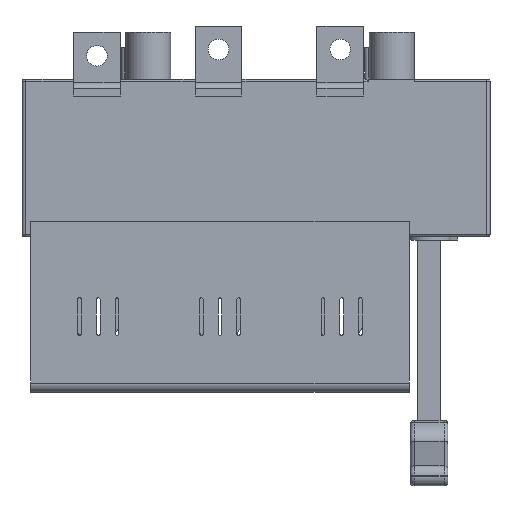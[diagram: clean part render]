
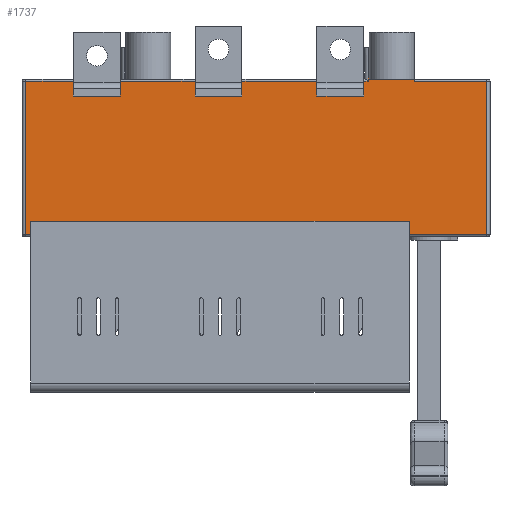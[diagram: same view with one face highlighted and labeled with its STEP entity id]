
A CAD part, front view. The second image highlights one B-rep face of the part: STEP entity #1737.
In plain terms, the highlighted planar face has unit normal (0, -1, 0).
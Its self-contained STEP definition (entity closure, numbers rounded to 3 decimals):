
#1737=ADVANCED_FACE('',(#3358),#2398,.T.);
#2398=PLANE('',#21617);
#3358=FACE_OUTER_BOUND('',#4579,.T.);
#4579=EDGE_LOOP('',(#10839,#10840,#10841,#10842,#10843,#10844,#10845,#10846,
#10847,#10848,#10849,#10850,#10851,#10852,#10853,#10854,#10855,#10856,#10857,
#10858,#10859,#10860,#10861,#10862,#10863,#10864,#10865,#10866));
#10839=ORIENTED_EDGE('',*,*,#15173,.F.);
#10840=ORIENTED_EDGE('',*,*,#15192,.F.);
#10841=ORIENTED_EDGE('',*,*,#15699,.T.);
#10842=ORIENTED_EDGE('',*,*,#15692,.T.);
#10843=ORIENTED_EDGE('',*,*,#15528,.F.);
#10844=ORIENTED_EDGE('',*,*,#15518,.T.);
#10845=ORIENTED_EDGE('',*,*,#15527,.T.);
#10846=ORIENTED_EDGE('',*,*,#15488,.T.);
#10847=ORIENTED_EDGE('',*,*,#15652,.T.);
#10848=ORIENTED_EDGE('',*,*,#15645,.F.);
#10849=ORIENTED_EDGE('',*,*,#15581,.F.);
#10850=ORIENTED_EDGE('',*,*,#15663,.T.);
#10851=ORIENTED_EDGE('',*,*,#15594,.T.);
#10852=ORIENTED_EDGE('',*,*,#15683,.T.);
#10853=ORIENTED_EDGE('',*,*,#15444,.F.);
#10854=ORIENTED_EDGE('',*,*,#15111,.T.);
#10855=ORIENTED_EDGE('',*,*,#15087,.T.);
#10856=ORIENTED_EDGE('',*,*,#15112,.T.);
#10857=ORIENTED_EDGE('',*,*,#15449,.T.);
#10858=ORIENTED_EDGE('',*,*,#15686,.T.);
#10859=ORIENTED_EDGE('',*,*,#15700,.F.);
#10860=ORIENTED_EDGE('',*,*,#15141,.F.);
#10861=ORIENTED_EDGE('',*,*,#15130,.F.);
#10862=ORIENTED_EDGE('',*,*,#15149,.F.);
#10863=ORIENTED_EDGE('',*,*,#15701,.T.);
#10864=ORIENTED_EDGE('',*,*,#15689,.T.);
#10865=ORIENTED_EDGE('',*,*,#15702,.F.);
#10866=ORIENTED_EDGE('',*,*,#15184,.F.);
#12471=VERTEX_POINT('',#31738);
#12474=VERTEX_POINT('',#31744);
#12476=VERTEX_POINT('',#31750);
#12477=VERTEX_POINT('',#31751);
#12503=VERTEX_POINT('',#31827);
#12506=VERTEX_POINT('',#31833);
#12508=VERTEX_POINT('',#31839);
#12509=VERTEX_POINT('',#31840);
#12535=VERTEX_POINT('',#31916);
#12538=VERTEX_POINT('',#31922);
#12540=VERTEX_POINT('',#31928);
#12541=VERTEX_POINT('',#31929);
#12713=VERTEX_POINT('',#32499);
#12716=VERTEX_POINT('',#32507);
#12744=VERTEX_POINT('',#32584);
#12745=VERTEX_POINT('',#32604);
#12753=VERTEX_POINT('',#32625);
#12763=VERTEX_POINT('',#32652);
#12767=VERTEX_POINT('',#32694);
#12815=VERTEX_POINT('',#32839);
#12816=VERTEX_POINT('',#32841);
#12823=VERTEX_POINT('',#32871);
#12826=VERTEX_POINT('',#32888);
#12861=VERTEX_POINT('',#32990);
#12871=VERTEX_POINT('',#33063);
#12873=VERTEX_POINT('',#33069);
#12874=VERTEX_POINT('',#33071);
#12876=VERTEX_POINT('',#33077);
#15087=EDGE_CURVE('',#12476,#12477,#17400,.T.);
#15111=EDGE_CURVE('',#12474,#12476,#17420,.T.);
#15112=EDGE_CURVE('',#12477,#12471,#17421,.T.);
#15130=EDGE_CURVE('',#12508,#12509,#17431,.T.);
#15141=EDGE_CURVE('',#12509,#12506,#17440,.T.);
#15149=EDGE_CURVE('',#12503,#12508,#17448,.T.);
#15173=EDGE_CURVE('',#12540,#12541,#17462,.T.);
#15184=EDGE_CURVE('',#12541,#12538,#17471,.T.);
#15192=EDGE_CURVE('',#12535,#12540,#17479,.T.);
#15444=EDGE_CURVE('',#12474,#12713,#17618,.T.);
#15449=EDGE_CURVE('',#12471,#12716,#17621,.T.);
#15488=EDGE_CURVE('',#12744,#12745,#17640,.T.);
#15518=EDGE_CURVE('',#12767,#12763,#17649,.T.);
#15527=EDGE_CURVE('',#12763,#12744,#17654,.T.);
#15528=EDGE_CURVE('',#12767,#12753,#17655,.T.);
#15581=EDGE_CURVE('',#12815,#12816,#17677,.T.);
#15594=EDGE_CURVE('',#12823,#12826,#17684,.T.);
#15645=EDGE_CURVE('',#12816,#12861,#17716,.T.);
#15652=EDGE_CURVE('',#12745,#12861,#17722,.T.);
#15663=EDGE_CURVE('',#12815,#12823,#17732,.T.);
#15683=EDGE_CURVE('',#12826,#12713,#17750,.T.);
#15686=EDGE_CURVE('',#12716,#12871,#17752,.T.);
#15689=EDGE_CURVE('',#12874,#12873,#17754,.T.);
#15692=EDGE_CURVE('',#12876,#12753,#17756,.T.);
#15699=EDGE_CURVE('',#12535,#12876,#17762,.T.);
#15700=EDGE_CURVE('',#12506,#12871,#17763,.T.);
#15701=EDGE_CURVE('',#12503,#12874,#17764,.T.);
#15702=EDGE_CURVE('',#12538,#12873,#17765,.T.);
#17400=LINE('',#31749,#19463);
#17420=LINE('',#31798,#19483);
#17421=LINE('',#31800,#19484);
#17431=LINE('',#31838,#19494);
#17440=LINE('',#31862,#19503);
#17448=LINE('',#31877,#19511);
#17462=LINE('',#31927,#19525);
#17471=LINE('',#31951,#19534);
#17479=LINE('',#31966,#19542);
#17618=LINE('',#32498,#19681);
#17621=LINE('',#32508,#19684);
#17640=LINE('',#32606,#19703);
#17649=LINE('',#32697,#19712);
#17654=LINE('',#32714,#19717);
#17655=LINE('',#32716,#19718);
#17677=LINE('',#32840,#19740);
#17684=LINE('',#32889,#19747);
#17716=LINE('',#32989,#19779);
#17722=LINE('',#33001,#19785);
#17732=LINE('',#33021,#19795);
#17750=LINE('',#33058,#19813);
#17752=LINE('',#33064,#19815);
#17754=LINE('',#33070,#19817);
#17756=LINE('',#33076,#19819);
#17762=LINE('',#33087,#19825);
#17763=LINE('',#33088,#19826);
#17764=LINE('',#33089,#19827);
#17765=LINE('',#33090,#19828);
#19463=VECTOR('',#25912,1.);
#19483=VECTOR('',#25958,1.);
#19484=VECTOR('',#25961,1.);
#19494=VECTOR('',#25995,1.);
#19503=VECTOR('',#26018,1.);
#19511=VECTOR('',#26032,1.);
#19525=VECTOR('',#26078,1.);
#19534=VECTOR('',#26101,1.);
#19542=VECTOR('',#26115,1.);
#19681=VECTOR('',#26694,1.);
#19684=VECTOR('',#26703,1.);
#19703=VECTOR('',#26788,1.);
#19712=VECTOR('',#26853,1.);
#19717=VECTOR('',#26876,1.);
#19718=VECTOR('',#26879,1.);
#19740=VECTOR('',#27017,1.);
#19747=VECTOR('',#27038,1.);
#19779=VECTOR('',#27138,1.);
#19785=VECTOR('',#27150,1.);
#19795=VECTOR('',#27172,1.);
#19813=VECTOR('',#27224,1.);
#19815=VECTOR('',#27230,1.);
#19817=VECTOR('',#27236,1.);
#19819=VECTOR('',#27242,1.);
#19825=VECTOR('',#27254,1.);
#19826=VECTOR('',#27255,1.);
#19827=VECTOR('',#27256,1.);
#19828=VECTOR('',#27257,1.);
#21617=AXIS2_PLACEMENT_3D('',#33091,#27258,#27259);
#25912=DIRECTION('',(-1.,0.,0.));
#25958=DIRECTION('',(0.,0.,-1.));
#25961=DIRECTION('',(0.,0.,1.));
#25995=DIRECTION('',(1.,0.,0.));
#26018=DIRECTION('',(0.,0.,1.));
#26032=DIRECTION('',(0.,0.,-1.));
#26078=DIRECTION('',(1.,0.,0.));
#26101=DIRECTION('',(0.,0.,1.));
#26115=DIRECTION('',(0.,0.,-1.));
#26694=DIRECTION('',(0.,0.,1.));
#26703=DIRECTION('',(0.,0.,1.));
#26788=DIRECTION('',(-1.,0.,0.));
#26853=DIRECTION('',(1.,0.,0.));
#26876=DIRECTION('',(0.,0.,1.));
#26879=DIRECTION('',(0.,0.,1.));
#27017=DIRECTION('',(0.,0.,-1.));
#27038=DIRECTION('',(0.,0.,-1.));
#27138=DIRECTION('',(1.,0.,0.));
#27150=DIRECTION('',(0.,0.,1.));
#27172=DIRECTION('',(-1.,0.,0.));
#27224=DIRECTION('',(-1.,0.,0.));
#27230=DIRECTION('',(-1.,0.,0.));
#27236=DIRECTION('',(-1.,0.,0.));
#27242=DIRECTION('',(-1.,0.,0.));
#27254=DIRECTION('',(0.,0.,1.));
#27255=DIRECTION('',(0.,0.,1.));
#27256=DIRECTION('',(0.,0.,1.));
#27257=DIRECTION('',(0.,0.,1.));
#27258=DIRECTION('',(0.,-1.,0.));
#27259=DIRECTION('',(1.,0.,0.));
#31738=CARTESIAN_POINT('',(-40.,-52.5,-5.));
#31744=CARTESIAN_POINT('',(-15.,-52.5,-5.));
#31749=CARTESIAN_POINT('',(-15.,-52.5,-9.));
#31750=CARTESIAN_POINT('',(-15.,-52.5,-9.));
#31751=CARTESIAN_POINT('',(-40.,-52.5,-9.));
#31798=CARTESIAN_POINT('',(-15.,-52.5,-9.));
#31800=CARTESIAN_POINT('',(-40.,-52.5,-9.));
#31827=CARTESIAN_POINT('',(-105.,-52.5,-5.));
#31833=CARTESIAN_POINT('',(-80.,-52.5,-5.));
#31838=CARTESIAN_POINT('',(-80.,-52.5,-9.));
#31839=CARTESIAN_POINT('',(-105.,-52.5,-9.));
#31840=CARTESIAN_POINT('',(-80.,-52.5,-9.));
#31862=CARTESIAN_POINT('',(-80.,-52.5,-9.));
#31877=CARTESIAN_POINT('',(-105.,-52.5,-9.));
#31916=CARTESIAN_POINT('',(-170.,-52.5,-5.));
#31922=CARTESIAN_POINT('',(-145.,-52.5,-5.));
#31927=CARTESIAN_POINT('',(-145.,-52.5,-9.));
#31928=CARTESIAN_POINT('',(-170.,-52.5,-9.));
#31929=CARTESIAN_POINT('',(-145.,-52.5,-9.));
#31951=CARTESIAN_POINT('',(-145.,-52.5,-9.));
#31966=CARTESIAN_POINT('',(-170.,-52.5,-9.));
#32498=CARTESIAN_POINT('',(-15.,-52.5,-9.));
#32499=CARTESIAN_POINT('',(-15.,-52.5,-1.));
#32507=CARTESIAN_POINT('',(-40.,-52.5,-1.));
#32508=CARTESIAN_POINT('',(-40.,-52.5,-9.));
#32584=CARTESIAN_POINT('',(50.5,-52.5,-1.));
#32604=CARTESIAN_POINT('',(12.,-52.5,-1.));
#32606=CARTESIAN_POINT('',(12.,-52.5,-1.));
#32625=CARTESIAN_POINT('',(-195.5,-52.5,-1.));
#32652=CARTESIAN_POINT('',(50.5,-52.5,-83.));
#32694=CARTESIAN_POINT('',(-195.5,-52.5,-83.));
#32697=CARTESIAN_POINT('',(-12.,-52.5,-83.));
#32714=CARTESIAN_POINT('',(50.5,-52.5,-84.));
#32716=CARTESIAN_POINT('',(-195.5,-52.5,-84.));
#32839=CARTESIAN_POINT('',(-12.,-52.5,17.));
#32840=CARTESIAN_POINT('',(-12.,-52.5,25.));
#32841=CARTESIAN_POINT('',(-12.,-52.5,0.));
#32871=CARTESIAN_POINT('',(-12.5,-52.5,17.));
#32888=CARTESIAN_POINT('',(-12.5,-52.5,-1.));
#32889=CARTESIAN_POINT('',(-12.5,-52.5,4.));
#32989=CARTESIAN_POINT('',(50.5,-52.5,0.));
#32990=CARTESIAN_POINT('',(12.,-52.5,0.));
#33001=CARTESIAN_POINT('',(12.,-52.5,4.));
#33021=CARTESIAN_POINT('',(7.5,-52.5,17.));
#33058=CARTESIAN_POINT('',(-195.5,-52.5,-1.));
#33063=CARTESIAN_POINT('',(-80.,-52.5,-1.));
#33064=CARTESIAN_POINT('',(-195.5,-52.5,-1.));
#33069=CARTESIAN_POINT('',(-145.,-52.5,-1.));
#33070=CARTESIAN_POINT('',(-195.5,-52.5,-1.));
#33071=CARTESIAN_POINT('',(-105.,-52.5,-1.));
#33076=CARTESIAN_POINT('',(-195.5,-52.5,-1.));
#33077=CARTESIAN_POINT('',(-170.,-52.5,-1.));
#33087=CARTESIAN_POINT('',(-170.,-52.5,-9.));
#33088=CARTESIAN_POINT('',(-80.,-52.5,-9.));
#33089=CARTESIAN_POINT('',(-105.,-52.5,-9.));
#33090=CARTESIAN_POINT('',(-145.,-52.5,-9.));
#33091=CARTESIAN_POINT('',(-12.,-52.5,4.));
